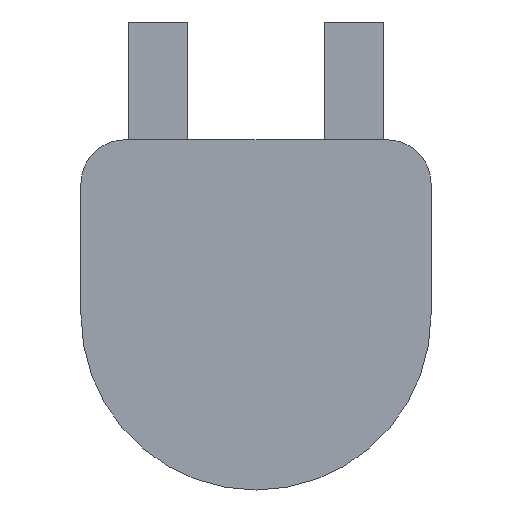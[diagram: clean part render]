
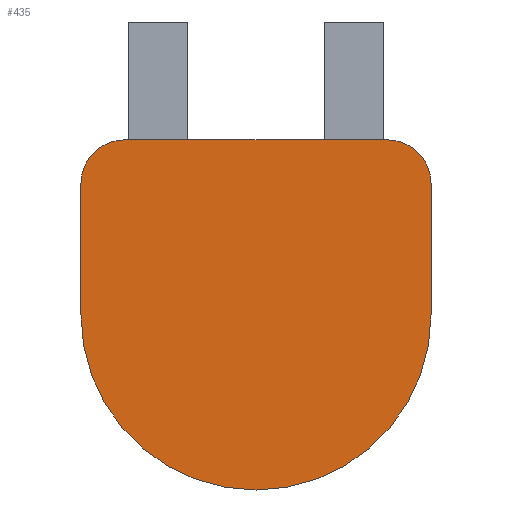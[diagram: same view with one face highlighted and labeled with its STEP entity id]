
A CAD part, front view. The second image highlights one B-rep face of the part: STEP entity #435.
In plain terms, the highlighted planar face has unit normal (0, -1, 0).
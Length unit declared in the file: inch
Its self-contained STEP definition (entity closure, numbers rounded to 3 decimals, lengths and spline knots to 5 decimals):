
#2 = VERTEX_POINT ( 'NONE', #86 ) ;
#10 = VERTEX_POINT ( 'NONE', #16 ) ;
#12 = DIRECTION ( 'NONE',  ( 0., 0., 1. ) ) ;
#16 = CARTESIAN_POINT ( 'NONE',  ( -0.75, 0., 0. ) ) ;
#28 = CARTESIAN_POINT ( 'NONE',  ( 0., 0., 0. ) ) ;
#29 = DIRECTION ( 'NONE',  ( 0., 1., 0. ) ) ;
#31 = EDGE_CURVE ( 'NONE', #10, #186, #107, .T. ) ;
#38 = ORIENTED_EDGE ( 'NONE', *, *, #296, .F. ) ;
#43 = VERTEX_POINT ( 'NONE', #146 ) ;
#50 = ORIENTED_EDGE ( 'NONE', *, *, #344, .F. ) ;
#54 = ORIENTED_EDGE ( 'NONE', *, *, #457, .F. ) ;
#64 = DIRECTION ( 'NONE',  ( 0., 0., 1. ) ) ;
#73 = PLANE ( 'NONE',  #201 ) ;
#78 = CARTESIAN_POINT ( 'NONE',  ( 0.5625, 0., 0.5625 ) ) ;
#86 = CARTESIAN_POINT ( 'NONE',  ( 0.75, 0., 0.5625 ) ) ;
#88 = ORIENTED_EDGE ( 'NONE', *, *, #500, .F. ) ;
#98 = EDGE_CURVE ( 'NONE', #573, #372, #199, .T. ) ;
#107 = LINE ( 'NONE', #126, #576 ) ;
#115 = CIRCLE ( 'NONE', #266, 0.1875 ) ;
#116 = CARTESIAN_POINT ( 'NONE',  ( 0., 0., 0. ) ) ;
#126 = CARTESIAN_POINT ( 'NONE',  ( -0.75, 0., 0. ) ) ;
#127 = CIRCLE ( 'NONE', #471, 0.75 ) ;
#133 = ORIENTED_EDGE ( 'NONE', *, *, #98, .F. ) ;
#146 = CARTESIAN_POINT ( 'NONE',  ( 0.5625, 0., 0.75 ) ) ;
#149 = CARTESIAN_POINT ( 'NONE',  ( 0.75, 0., 0. ) ) ;
#158 = CARTESIAN_POINT ( 'NONE',  ( 0.75, 0., 0. ) ) ;
#164 = DIRECTION ( 'NONE',  ( 0., 0., 1. ) ) ;
#173 = VECTOR ( 'NONE', #241, 39.37008 ) ;
#186 = VERTEX_POINT ( 'NONE', #343 ) ;
#194 = CARTESIAN_POINT ( 'NONE',  ( 0., 0., 0. ) ) ;
#199 = CIRCLE ( 'NONE', #533, 0.75 ) ;
#201 = AXIS2_PLACEMENT_3D ( 'NONE', #116, #207, #205 ) ;
#205 = DIRECTION ( 'NONE',  ( 0., 0., 1. ) ) ;
#207 = DIRECTION ( 'NONE',  ( 0., 1., 0. ) ) ;
#210 = DIRECTION ( 'NONE',  ( 0., 1., 0. ) ) ;
#223 = EDGE_LOOP ( 'NONE', ( #455, #498, #133, #88, #54, #50, #38 ) ) ;
#236 = LINE ( 'NONE', #477, #173 ) ;
#240 = DIRECTION ( 'NONE',  ( 0., 1., 0. ) ) ;
#241 = DIRECTION ( 'NONE',  ( 1., 0., 0. ) ) ;
#250 = FACE_OUTER_BOUND ( 'NONE', #223, .T. ) ;
#266 = AXIS2_PLACEMENT_3D ( 'NONE', #438, #29, #570 ) ;
#276 = VERTEX_POINT ( 'NONE', #313 ) ;
#293 = DIRECTION ( 'NONE',  ( 0., 0., -1. ) ) ;
#296 = EDGE_CURVE ( 'NONE', #186, #276, #115, .T. ) ;
#297 = DIRECTION ( 'NONE',  ( 0., 1., 0. ) ) ;
#313 = CARTESIAN_POINT ( 'NONE',  ( -0.5625, 0., 0.75 ) ) ;
#319 = VECTOR ( 'NONE', #293, 39.37008 ) ;
#333 = CIRCLE ( 'NONE', #357, 0.1875 ) ;
#343 = CARTESIAN_POINT ( 'NONE',  ( -0.75, 0., 0.5625 ) ) ;
#344 = EDGE_CURVE ( 'NONE', #276, #43, #236, .T. ) ;
#357 = AXIS2_PLACEMENT_3D ( 'NONE', #78, #210, #526 ) ;
#372 = VERTEX_POINT ( 'NONE', #465 ) ;
#429 = EDGE_CURVE ( 'NONE', #372, #10, #127, .T. ) ;
#435 = ADVANCED_FACE ( 'NONE', ( #250 ), #73, .F. ) ;
#438 = CARTESIAN_POINT ( 'NONE',  ( -0.5625, 0., 0.5625 ) ) ;
#455 = ORIENTED_EDGE ( 'NONE', *, *, #31, .F. ) ;
#457 = EDGE_CURVE ( 'NONE', #43, #2, #333, .T. ) ;
#465 = CARTESIAN_POINT ( 'NONE',  ( 0., 0., -0.75 ) ) ;
#471 = AXIS2_PLACEMENT_3D ( 'NONE', #28, #297, #164 ) ;
#477 = CARTESIAN_POINT ( 'NONE',  ( 0., 0., 0.75 ) ) ;
#498 = ORIENTED_EDGE ( 'NONE', *, *, #429, .F. ) ;
#500 = EDGE_CURVE ( 'NONE', #2, #573, #565, .T. ) ;
#526 = DIRECTION ( 'NONE',  ( 0., 0., 1. ) ) ;
#533 = AXIS2_PLACEMENT_3D ( 'NONE', #194, #240, #12 ) ;
#565 = LINE ( 'NONE', #158, #319 ) ;
#570 = DIRECTION ( 'NONE',  ( 0., 0., 1. ) ) ;
#573 = VERTEX_POINT ( 'NONE', #149 ) ;
#576 = VECTOR ( 'NONE', #64, 39.37008 ) ;
